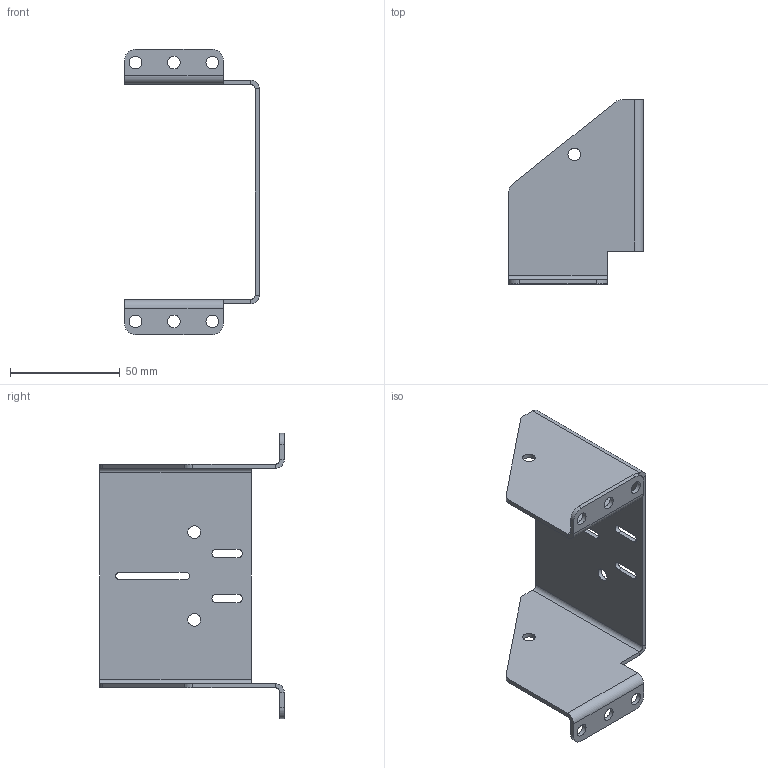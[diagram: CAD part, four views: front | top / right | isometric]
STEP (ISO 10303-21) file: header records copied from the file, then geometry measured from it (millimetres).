
FILE_DESCRIPTION (( 'STEP AP214' ), '1' );
FILE_NAME ('02486.04 Camera Mount 80.STEP', '2023-06-26T06:19:41', ( '' ), ( '' ), 'SwSTEP 2.0', 'SolidWorks 2022', '' );
FILE_SCHEMA (( 'AUTOMOTIVE_DESIGN' ));
Length unit declared in the file: millimetre
Products named in the file (1): 02486.04 Camera Mount 80
Bounding box: 61.5 x 84 x 130 mm (x, y, z)
Volume: 30139.8 mm3; surface area: 32022.8 mm2
Topology: 1 solids, 1 shells, 74 faces, 185 edges, 113 vertices
Faces by surface type: plane 42, cylinder 32
Full cylindrical faces by diameter (mm): 5.8 x10
Entity records: 2212 total; most frequent: DIRECTION 388, CARTESIAN_POINT 361, ORIENTED_EDGE 348, EDGE_CURVE 174, AXIS2_PLACEMENT_3D 139, VERTEX_POINT 112, EDGE_LOOP 110, LINE 110
